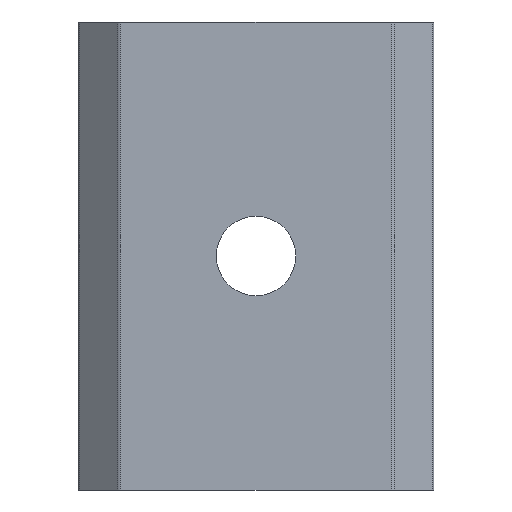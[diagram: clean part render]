
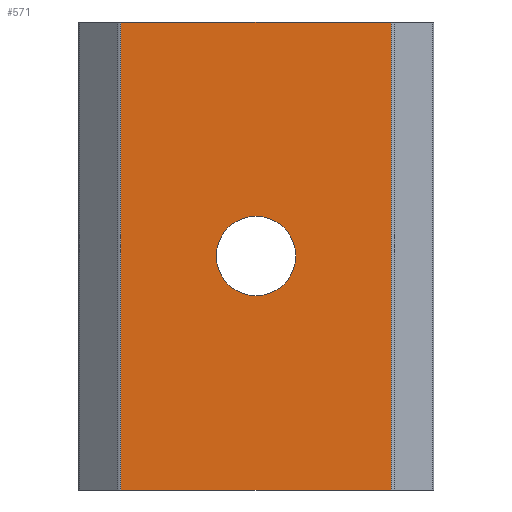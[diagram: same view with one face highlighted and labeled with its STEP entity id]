
A CAD part, left-side view. The second image highlights one B-rep face of the part: STEP entity #571.
In plain terms, the highlighted planar face has unit normal (-1, 0, 0).
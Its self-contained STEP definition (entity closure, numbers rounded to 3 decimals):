
#37 = LINE ( 'NONE', #233, #606 ) ;
#52 = CARTESIAN_POINT ( 'NONE',  ( -5.6, 0., 0. ) ) ;
#57 = LINE ( 'NONE', #175, #268 ) ;
#58 = ORIENTED_EDGE ( 'NONE', *, *, #640, .F. ) ;
#86 = CIRCLE ( 'NONE', #135, 3.4 ) ;
#94 = AXIS2_PLACEMENT_3D ( 'NONE', #52, #558, #568 ) ;
#96 = ORIENTED_EDGE ( 'NONE', *, *, #196, .T. ) ;
#114 = ORIENTED_EDGE ( 'NONE', *, *, #482, .F. ) ;
#116 = DIRECTION ( 'NONE',  ( 0., 0., -1. ) ) ;
#131 = FACE_OUTER_BOUND ( 'NONE', #159, .T. ) ;
#134 = DIRECTION ( 'NONE',  ( 1., 0., 0. ) ) ;
#135 = AXIS2_PLACEMENT_3D ( 'NONE', #392, #287, #454 ) ;
#145 = LINE ( 'NONE', #506, #260 ) ;
#159 = EDGE_LOOP ( 'NONE', ( #96, #114, #331, #165 ) ) ;
#165 = ORIENTED_EDGE ( 'NONE', *, *, #561, .T. ) ;
#173 = VERTEX_POINT ( 'NONE', #401 ) ;
#175 = CARTESIAN_POINT ( 'NONE',  ( -5.6, -11.549, 20. ) ) ;
#185 = VERTEX_POINT ( 'NONE', #239 ) ;
#188 = AXIS2_PLACEMENT_3D ( 'NONE', #340, #134, #677 ) ;
#196 = EDGE_CURVE ( 'NONE', #203, #425, #339, .T. ) ;
#203 = VERTEX_POINT ( 'NONE', #484 ) ;
#225 = DIRECTION ( 'NONE',  ( 0., -1., 0. ) ) ;
#233 = CARTESIAN_POINT ( 'NONE',  ( -5.6, 11.549, 20. ) ) ;
#237 = VERTEX_POINT ( 'NONE', #368 ) ;
#239 = CARTESIAN_POINT ( 'NONE',  ( -5.6, 0., 3.4 ) ) ;
#242 = VERTEX_POINT ( 'NONE', #593 ) ;
#260 = VECTOR ( 'NONE', #225, 1000. ) ;
#268 = VECTOR ( 'NONE', #116, 1000. ) ;
#287 = DIRECTION ( 'NONE',  ( -1., 0., 0. ) ) ;
#331 = ORIENTED_EDGE ( 'NONE', *, *, #521, .F. ) ;
#339 = LINE ( 'NONE', #598, #430 ) ;
#340 = CARTESIAN_POINT ( 'NONE',  ( -5.6, 11.549, 20. ) ) ;
#343 = PLANE ( 'NONE',  #188 ) ;
#368 = CARTESIAN_POINT ( 'NONE',  ( -5.6, -11.549, 20. ) ) ;
#392 = CARTESIAN_POINT ( 'NONE',  ( -5.6, 0., 0. ) ) ;
#401 = CARTESIAN_POINT ( 'NONE',  ( -5.6, 0., -3.4 ) ) ;
#412 = EDGE_CURVE ( 'NONE', #185, #173, #681, .T. ) ;
#425 = VERTEX_POINT ( 'NONE', #562 ) ;
#430 = VECTOR ( 'NONE', #536, 1000. ) ;
#454 = DIRECTION ( 'NONE',  ( 0., 0., 1. ) ) ;
#482 = EDGE_CURVE ( 'NONE', #237, #425, #57, .T. ) ;
#484 = CARTESIAN_POINT ( 'NONE',  ( -5.6, 11.549, -20. ) ) ;
#506 = CARTESIAN_POINT ( 'NONE',  ( -5.6, 11.549, 20. ) ) ;
#521 = EDGE_CURVE ( 'NONE', #242, #237, #145, .T. ) ;
#532 = FACE_BOUND ( 'NONE', #619, .T. ) ;
#536 = DIRECTION ( 'NONE',  ( 0., -1., 0. ) ) ;
#558 = DIRECTION ( 'NONE',  ( -1., 0., 0. ) ) ;
#561 = EDGE_CURVE ( 'NONE', #242, #203, #37, .T. ) ;
#562 = CARTESIAN_POINT ( 'NONE',  ( -5.6, -11.549, -20. ) ) ;
#568 = DIRECTION ( 'NONE',  ( 0., 0., 1. ) ) ;
#571 = ADVANCED_FACE ( 'NONE', ( #532, #131 ), #343, .F. ) ;
#593 = CARTESIAN_POINT ( 'NONE',  ( -5.6, 11.549, 20. ) ) ;
#598 = CARTESIAN_POINT ( 'NONE',  ( -5.6, 11.549, -20. ) ) ;
#606 = VECTOR ( 'NONE', #625, 1000. ) ;
#619 = EDGE_LOOP ( 'NONE', ( #708, #58 ) ) ;
#625 = DIRECTION ( 'NONE',  ( 0., 0., -1. ) ) ;
#640 = EDGE_CURVE ( 'NONE', #173, #185, #86, .T. ) ;
#677 = DIRECTION ( 'NONE',  ( 0., 1., 0. ) ) ;
#681 = CIRCLE ( 'NONE', #94, 3.4 ) ;
#708 = ORIENTED_EDGE ( 'NONE', *, *, #412, .F. ) ;
